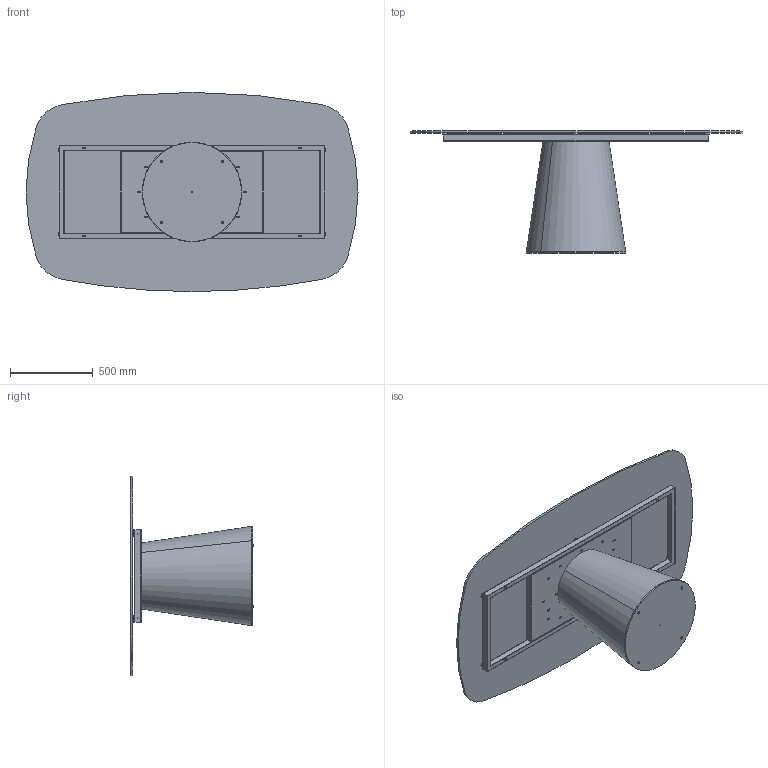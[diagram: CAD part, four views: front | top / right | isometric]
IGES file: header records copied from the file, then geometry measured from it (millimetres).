
Start section: SolidWorks IGES file using analytic representation for surfaces
Global section: file name: Y:\eforma\TECNICO\SOLIDWORKS\E-FORMA\1-TAVOLI\TEO\08 modelli 3D web\TO41G_Teo_200x120_Glass Shaped.IGS; native system: SolidWorks 2022; preprocessor: SolidWorks 2022; author: eforma.tech; date: 240802.112919; units: millimetre
Bounding box: 2000 x 735.19 x 1200 mm (x, y, z)
Volume: 57647852.8 mm3; surface area: 9797832 mm2
Topology: 21 solids, 21 shells, 513 faces, 1201 edges, 722 vertices
Faces by surface type: revolution 271, plane 242
